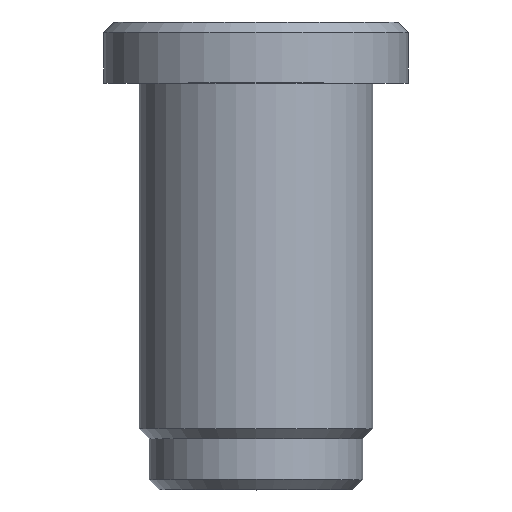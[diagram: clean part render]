
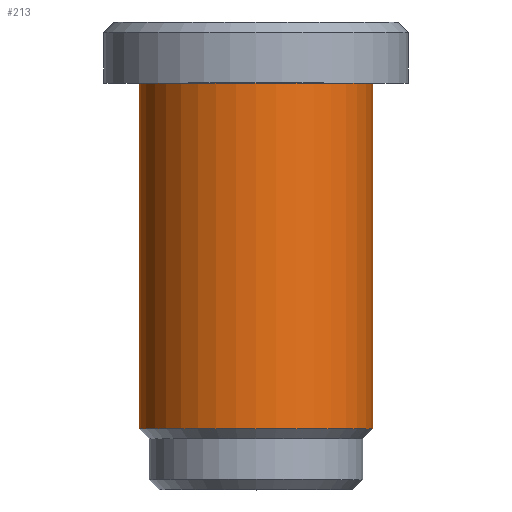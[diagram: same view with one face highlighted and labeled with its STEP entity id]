
A CAD part, top view. The second image highlights one B-rep face of the part: STEP entity #213.
In plain terms, the highlighted cylindrical face has radius 5.75 mm (diameter 11.5 mm), a full revolution.
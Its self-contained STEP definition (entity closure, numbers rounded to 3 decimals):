
#17 = DIRECTION ( 'NONE',  ( 0., 0., 1. ) ) ;
#23 = CIRCLE ( 'NONE', #94, 5.75 ) ;
#29 = CARTESIAN_POINT ( 'NONE',  ( 0., 38.692, 0. ) ) ;
#47 = DIRECTION ( 'NONE',  ( 0., 1., 0. ) ) ;
#52 = CARTESIAN_POINT ( 'NONE',  ( 0., 58.478, 0. ) ) ;
#69 = FACE_OUTER_BOUND ( 'NONE', #172, .T. ) ;
#81 = ORIENTED_EDGE ( 'NONE', *, *, #123, .F. ) ;
#94 = AXIS2_PLACEMENT_3D ( 'NONE', #106, #190, #17 ) ;
#96 = VERTEX_POINT ( 'NONE', #215 ) ;
#104 = DIRECTION ( 'NONE',  ( 0., 0., 1. ) ) ;
#106 = CARTESIAN_POINT ( 'NONE',  ( 0., 21.692, 0. ) ) ;
#111 = ORIENTED_EDGE ( 'NONE', *, *, #233, .T. ) ;
#123 = EDGE_CURVE ( 'NONE', #231, #231, #134, .T. ) ;
#134 = CIRCLE ( 'NONE', #166, 5.75 ) ;
#144 = DIRECTION ( 'NONE',  ( 0., 1., 0. ) ) ;
#166 = AXIS2_PLACEMENT_3D ( 'NONE', #29, #144, #104 ) ;
#167 = AXIS2_PLACEMENT_3D ( 'NONE', #52, #47, #202 ) ;
#169 = FACE_OUTER_BOUND ( 'NONE', #200, .T. ) ;
#172 = EDGE_LOOP ( 'NONE', ( #81 ) ) ;
#181 = CARTESIAN_POINT ( 'NONE',  ( 0., 38.692, 5.75 ) ) ;
#190 = DIRECTION ( 'NONE',  ( 0., 1., 0. ) ) ;
#200 = EDGE_LOOP ( 'NONE', ( #111 ) ) ;
#202 = DIRECTION ( 'NONE',  ( 0., 0., 1. ) ) ;
#213 = ADVANCED_FACE ( 'NONE', ( #169, #69 ), #218, .T. ) ;
#215 = CARTESIAN_POINT ( 'NONE',  ( 0., 21.692, 5.75 ) ) ;
#218 = CYLINDRICAL_SURFACE ( 'NONE', #167, 5.75 ) ;
#231 = VERTEX_POINT ( 'NONE', #181 ) ;
#233 = EDGE_CURVE ( 'NONE', #96, #96, #23, .T. ) ;
